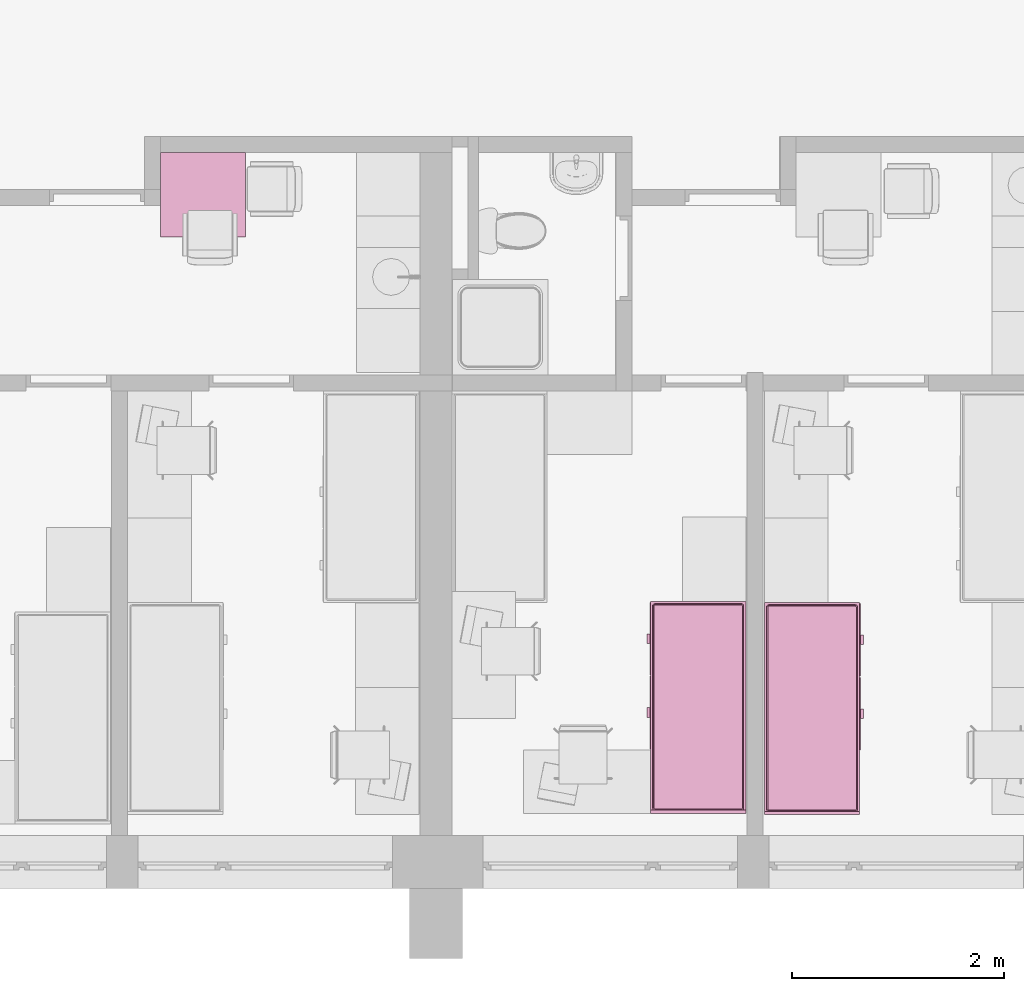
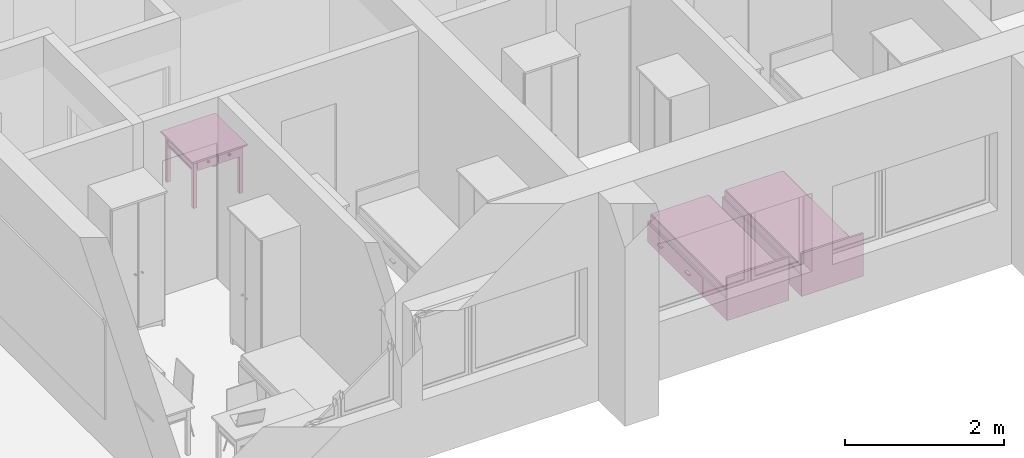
# One storey, part 119 of 165: 3 furnishings.
"""IFC2X3 building model written with IfcOpenShell, lengths in millimetres."""

from ifc_helpers import new_model, entity, si_unit, converted_unit, money_unit, direction, frame, origin_with_axes, place, context, subcontext, project, spatial, faceted_brep, source, transform, mapped, material, material_list, type_object, element, save


model = new_model("IFC2X3")

# Units and contexts
model_context = context("Model", 3, precision=1e-05, world=origin_with_axes(), true_north=direction((0.0, 1.0)))
body_context = subcontext(model_context, "Body", "Model", "MODEL_VIEW")
ifc_project = project(units=[si_unit("LENGTHUNIT", "METRE", prefix="MILLI"), si_unit("AREAUNIT", "SQUARE_METRE"), si_unit("VOLUMEUNIT", "CUBIC_METRE"), converted_unit("PLANEANGLEUNIT", "DEGREE", entity("IfcPlaneAngleMeasure", 0.0174532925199), si_unit("PLANEANGLEUNIT", "RADIAN"), dimensions=[0, 0, 0, 0, 0, 0, 0]), si_unit("SOLIDANGLEUNIT", "STERADIAN"), money_unit("USD"), converted_unit("TIMEUNIT", "Year", entity("IfcTimeMeasure", 31556926.0), si_unit("TIMEUNIT", "SECOND"), dimensions=[0, 0, 0, 0, 0, 0, 0]), si_unit("MASSUNIT", "GRAM"), si_unit("THERMODYNAMICTEMPERATUREUNIT", "DEGREE_CELSIUS"), si_unit("LUMINOUSINTENSITYUNIT", "LUMEN")], contexts=[model_context])

# Site, building, storey
site_placement = place(None, origin_with_axes())
site = spatial("IfcSite", under=ifc_project, at=site_placement, Name="Site", CompositionType="ELEMENT")
building_placement = place(site_placement, origin_with_axes())
building = spatial("IfcBuilding", under=site, at=building_placement, Name="Building", CompositionType="ELEMENT")
storey_placement = place(building_placement, frame((0.0, 0.0, 6300.0), z_axis=(0.0, 0.0, 1.0), x_axis=(1.0, 0.0, 0.0)))
storey = spatial("IfcBuildingStorey", under=building, at=storey_placement, Name="4KORRUS", CompositionType="ELEMENT", Elevation=6300.0)

# Furnishings
ifc_material = material(Name="Background")
ifc_material_list = material_list([ifc_material])
furnishing_element_type_1 = type_object("IfcFurnishingElementType", Name="Bed 19")
shared_shape_1 = source(origin_with_axes(), body_context, "Body", "Brep", [
    faceted_brep([(900.0, 1970.0, 0.0), (0.0, 1970.0, 0.0), (0.0, 2000.0, 0.0), (900.0, 2000.0, 0.0), (900.0, 1970.0, 660.0), (0.0, 1970.0, 660.0), (0.0, 2000.0, 660.0), (900.0, 2000.0, 660.0)], [[[0, 1, 2, 3]], [[1, 0, 4, 5]], [[2, 1, 5, 6]], [[3, 2, 6, 7]], [[0, 3, 7, 4]], [[5, 4, 7, 6]]]),
    faceted_brep([(900.0, 0.0, 0.0), (0.0, 0.0, 0.0), (0.0, 1970.0, 0.0), (900.0, 1970.0, 0.0), (900.0, 0.0, 320.0), (0.0, 0.0, 320.0), (0.0, 1970.0, 320.0), (900.0, 1970.0, 320.0)], [[[0, 1, 2, 3]], [[1, 0, 4, 5]], [[2, 1, 5, 6]], [[3, 2, 6, 7]], [[0, 3, 7, 4]], [[5, 4, 7, 6]]]),
    faceted_brep([(905.0, 10.0, 30.0), (900.0, 10.0, 30.0), (900.0, 695.0, 30.0), (905.0, 695.0, 30.0), (905.0, 10.0, 290.0), (900.0, 10.0, 290.0), (900.0, 695.0, 290.0), (905.0, 695.0, 290.0)], [[[0, 1, 2, 3]], [[1, 0, 4, 5]], [[2, 1, 5, 6]], [[3, 2, 6, 7]], [[0, 3, 7, 4]], [[5, 4, 7, 6]]]),
    faceted_brep([(935.0, 307.5, 150.0), (905.0, 307.5, 150.0), (905.0, 397.5, 150.0), (935.0, 397.5, 150.0), (935.0, 307.5, 170.0), (905.0, 307.5, 170.0), (905.0, 397.5, 170.0), (935.0, 397.5, 170.0)], [[[0, 1, 2, 3]], [[1, 0, 4, 5]], [[2, 1, 5, 6]], [[3, 2, 6, 7]], [[0, 3, 7, 4]], [[5, 4, 7, 6]]]),
    faceted_brep([(905.0, 705.0, 30.0), (900.0, 705.0, 30.0), (900.0, 1390.0, 30.0), (905.0, 1390.0, 30.0), (905.0, 705.0, 290.0), (900.0, 705.0, 290.0), (900.0, 1390.0, 290.0), (905.0, 1390.0, 290.0)], [[[0, 1, 2, 3]], [[1, 0, 4, 5]], [[2, 1, 5, 6]], [[3, 2, 6, 7]], [[0, 3, 7, 4]], [[5, 4, 7, 6]]]),
    faceted_brep([(935.0, 1002.5, 150.0), (905.0, 1002.5, 150.0), (905.0, 1092.5, 150.0), (935.0, 1092.5, 150.0), (935.0, 1002.5, 170.0), (905.0, 1002.5, 170.0), (905.0, 1092.5, 170.0), (935.0, 1092.5, 170.0)], [[[0, 1, 2, 3]], [[1, 0, 4, 5]], [[2, 1, 5, 6]], [[3, 2, 6, 7]], [[0, 3, 7, 4]], [[5, 4, 7, 6]]]),
    faceted_brep([(20.0, 40.0, 350.0), (20.0, 1950.0, 350.0), (21.522, 1957.654, 350.0), (25.858, 1964.142, 350.0), (32.346, 1968.478, 350.0), (40.0, 1970.0, 350.0), (860.0, 1970.0, 350.0), (867.654, 1968.478, 350.0), (874.142, 1964.142, 350.0), (878.478, 1957.654, 350.0), (880.0, 1950.0, 350.0), (880.0, 40.0, 350.0), (878.478, 32.346, 350.0), (874.142, 25.858, 350.0), (867.654, 21.522, 350.0), (860.0, 20.0, 350.0), (40.0, 20.0, 350.0), (32.346, 21.522, 350.0), (25.858, 25.858, 350.0), (21.522, 32.346, 350.0), (20.0, 40.0, 420.0), (20.0, 1950.0, 420.0), (21.522, 1957.654, 420.0), (25.858, 1964.142, 420.0), (32.346, 1968.478, 420.0), (40.0, 1970.0, 420.0), (860.0, 1970.0, 420.0), (867.654, 1968.478, 420.0), (874.142, 1964.142, 420.0), (878.478, 1957.654, 420.0), (880.0, 1950.0, 420.0), (880.0, 40.0, 420.0), (878.478, 32.346, 420.0), (874.142, 25.858, 420.0), (867.654, 21.522, 420.0), (860.0, 20.0, 420.0), (40.0, 20.0, 420.0), (32.346, 21.522, 420.0), (25.858, 25.858, 420.0), (21.522, 32.346, 420.0), (21.522, 40.15, 427.654), (21.522, 1949.85, 427.654), (22.956, 1957.06, 427.654), (26.955, 1963.045, 427.654), (32.94, 1967.044, 427.654), (40.15, 1968.478, 427.654), (859.85, 1968.478, 427.654), (867.06, 1967.044, 427.654), (873.045, 1963.045, 427.654), (877.044, 1957.06, 427.654), (878.478, 1949.85, 427.654), (878.478, 40.15, 427.654), (877.044, 32.94, 427.654), (873.045, 26.955, 427.654), (867.06, 22.956, 427.654), (859.85, 21.522, 427.654), (40.15, 21.522, 427.654), (32.94, 22.956, 427.654), (26.955, 26.955, 427.654), (22.956, 32.94, 427.654), (32.346, 41.216, 438.478), (32.346, 1948.784, 438.478), (33.152, 1952.836, 438.478), (34.759, 1955.241, 438.478), (37.164, 1956.848, 438.478), (41.216, 1957.654, 438.478), (858.784, 1957.654, 438.478), (862.836, 1956.848, 438.478), (865.241, 1955.241, 438.478), (866.848, 1952.836, 438.478), (867.654, 1948.784, 438.478), (867.654, 41.216, 438.478), (866.848, 37.164, 438.478), (865.241, 34.759, 438.478), (862.836, 33.152, 438.478), (858.784, 32.346, 438.478), (41.216, 32.346, 438.478), (37.164, 33.152, 438.478), (34.759, 34.759, 438.478), (33.152, 37.164, 438.478), (40.0, 41.97, 440.0), (40.0, 1948.03, 440.0), (40.327, 1949.673, 440.0), (40.0, 1950.0, 439.924), (41.97, 1950.0, 440.0), (858.03, 1950.0, 440.0), (859.673, 1949.673, 440.0), (860.0, 1950.0, 439.924), (860.0, 1948.03, 440.0), (860.0, 41.97, 440.0), (859.673, 40.327, 440.0), (860.0, 40.0, 439.924), (858.03, 40.0, 440.0), (41.97, 40.0, 440.0), (40.327, 40.327, 440.0), (40.0, 40.0, 439.924)], [[[0, 1, 2, 3, 4, 5, 6, 7, 8, 9, 10, 11, 12, 13, 14, 15, 16, 17, 18, 19]], [[1, 0, 20, 21]], [[2, 1, 21, 22]], [[3, 2, 22, 23]], [[4, 3, 23, 24]], [[5, 4, 24, 25]], [[6, 5, 25, 26]], [[7, 6, 26, 27]], [[8, 7, 27, 28]], [[9, 8, 28, 29]], [[10, 9, 29, 30]], [[11, 10, 30, 31]], [[12, 11, 31, 32]], [[13, 12, 32, 33]], [[14, 13, 33, 34]], [[15, 14, 34, 35]], [[16, 15, 35, 36]], [[17, 16, 36, 37]], [[18, 17, 37, 38]], [[19, 18, 38, 39]], [[0, 19, 39, 20]], [[21, 20, 40, 41]], [[22, 21, 41, 42]], [[23, 22, 42, 43]], [[24, 23, 43, 44]], [[25, 24, 44, 45]], [[26, 25, 45, 46]], [[27, 26, 46, 47]], [[28, 27, 47, 48]], [[29, 28, 48, 49]], [[30, 29, 49, 50]], [[31, 30, 50, 51]], [[32, 31, 51, 52]], [[33, 32, 52, 53]], [[34, 33, 53, 54]], [[35, 34, 54, 55]], [[36, 35, 55, 56]], [[37, 36, 56, 57]], [[38, 37, 57, 58]], [[39, 38, 58, 59]], [[20, 39, 59, 40]], [[41, 40, 60, 61]], [[42, 41, 61, 62]], [[43, 42, 62, 63]], [[44, 43, 63, 64]], [[45, 44, 64, 65]], [[46, 45, 65, 66]], [[47, 46, 66, 67]], [[48, 47, 67, 68]], [[49, 48, 68, 69]], [[50, 49, 69, 70]], [[51, 50, 70, 71]], [[52, 51, 71, 72]], [[53, 52, 72, 73]], [[54, 53, 73, 74]], [[55, 54, 74, 75]], [[56, 55, 75, 76]], [[57, 56, 76, 77]], [[58, 57, 77, 78]], [[59, 58, 78, 79]], [[40, 59, 79, 60]], [[61, 60, 80, 81]], [[62, 61, 81, 82, 83]], [[63, 62, 83]], [[64, 63, 83]], [[65, 64, 83, 82, 84]], [[66, 65, 84, 85]], [[67, 66, 85, 86, 87]], [[68, 67, 87]], [[69, 68, 87]], [[70, 69, 87, 86, 88]], [[71, 70, 88, 89]], [[72, 71, 89, 90, 91]], [[73, 72, 91]], [[74, 73, 91]], [[75, 74, 91, 90, 92]], [[76, 75, 92, 93]], [[77, 76, 93, 94, 95]], [[78, 77, 95]], [[79, 78, 95]], [[60, 79, 95, 94, 80]], [[81, 80, 94, 93, 92, 90, 89, 88, 86, 85, 84, 82]]]),
    faceted_brep([(20.0, 40.0, 350.0), (21.522, 32.346, 350.0), (25.858, 25.858, 350.0), (32.346, 21.522, 350.0), (40.0, 20.0, 350.0), (860.0, 20.0, 350.0), (867.654, 21.522, 350.0), (874.142, 25.858, 350.0), (878.478, 32.346, 350.0), (880.0, 40.0, 350.0), (880.0, 1950.0, 350.0), (878.478, 1957.654, 350.0), (874.142, 1964.142, 350.0), (867.654, 1968.478, 350.0), (860.0, 1970.0, 350.0), (40.0, 1970.0, 350.0), (32.346, 1968.478, 350.0), (25.858, 1964.142, 350.0), (21.522, 1957.654, 350.0), (20.0, 1950.0, 350.0), (20.0, 40.0, 320.0), (21.522, 32.346, 320.0), (25.858, 25.858, 320.0), (32.346, 21.522, 320.0), (40.0, 20.0, 320.0), (860.0, 20.0, 320.0), (867.654, 21.522, 320.0), (874.142, 25.858, 320.0), (878.478, 32.346, 320.0), (880.0, 40.0, 320.0), (880.0, 1950.0, 320.0), (878.478, 1957.654, 320.0), (874.142, 1964.142, 320.0), (867.654, 1968.478, 320.0), (860.0, 1970.0, 320.0), (40.0, 1970.0, 320.0), (32.346, 1968.478, 320.0), (25.858, 1964.142, 320.0), (21.522, 1957.654, 320.0), (20.0, 1950.0, 320.0)], [[[0, 1, 2, 3, 4, 5, 6, 7, 8, 9, 10, 11, 12, 13, 14, 15, 16, 17, 18, 19]], [[0, 20, 21, 1]], [[1, 21, 22, 2]], [[2, 22, 23, 3]], [[3, 23, 24, 4]], [[4, 24, 25, 5]], [[5, 25, 26, 6]], [[6, 26, 27, 7]], [[7, 27, 28, 8]], [[8, 28, 29, 9]], [[9, 29, 30, 10]], [[10, 30, 31, 11]], [[11, 31, 32, 12]], [[12, 32, 33, 13]], [[13, 33, 34, 14]], [[14, 34, 35, 15]], [[15, 35, 36, 16]], [[16, 36, 37, 17]], [[17, 37, 38, 18]], [[18, 38, 39, 19]], [[19, 39, 20, 0]], [[20, 39, 38, 37, 36, 35, 34, 33, 32, 31, 30, 29, 28, 27, 26, 25, 24, 23, 22, 21]]]),
])
furnishing_1_placement = place(storey_placement, frame((2784.70329669, -17429.2398994, 0.0), z_axis=(0.0, 0.0, 1.0), x_axis=(-1.0, 0.0, 0.0)))
element("IfcFurnishingElement", 1, at=furnishing_1_placement, inside=storey, type_object=furnishing_element_type_1, material=ifc_material_list, Name="FU - 013", context=body_context, shape_type="MappedRepresentation", body=[
    mapped(shared_shape_1, transform((0.0, 0.0, 0.0))),
])
shared_shape_2 = source(origin_with_axes(), body_context, "Body", "Brep", [
    faceted_brep([(-900.0, 1970.0, 0.0), (-900.0, 2000.0, 0.0), (0.0, 2000.0, 0.0), (0.0, 1970.0, 0.0), (-900.0, 1970.0, 660.0), (-900.0, 2000.0, 660.0), (0.0, 2000.0, 660.0), (0.0, 1970.0, 660.0)], [[[0, 1, 2, 3]], [[0, 4, 5, 1]], [[1, 5, 6, 2]], [[2, 6, 7, 3]], [[3, 7, 4, 0]], [[7, 6, 5, 4]]]),
    faceted_brep([(-900.0, 0.0, 0.0), (-900.0, 1970.0, 0.0), (0.0, 1970.0, 0.0), (0.0, 0.0, 0.0), (-900.0, 0.0, 320.0), (-900.0, 1970.0, 320.0), (0.0, 1970.0, 320.0), (0.0, 0.0, 320.0)], [[[0, 1, 2, 3]], [[0, 4, 5, 1]], [[1, 5, 6, 2]], [[2, 6, 7, 3]], [[3, 7, 4, 0]], [[7, 6, 5, 4]]]),
    faceted_brep([(-905.0, 10.0, 30.0), (-905.0, 695.0, 30.0), (-900.0, 695.0, 30.0), (-900.0, 10.0, 30.0), (-905.0, 10.0, 290.0), (-905.0, 695.0, 290.0), (-900.0, 695.0, 290.0), (-900.0, 10.0, 290.0)], [[[0, 1, 2, 3]], [[0, 4, 5, 1]], [[1, 5, 6, 2]], [[2, 6, 7, 3]], [[3, 7, 4, 0]], [[7, 6, 5, 4]]]),
    faceted_brep([(-935.0, 307.5, 150.0), (-935.0, 397.5, 150.0), (-905.0, 397.5, 150.0), (-905.0, 307.5, 150.0), (-935.0, 307.5, 170.0), (-935.0, 397.5, 170.0), (-905.0, 397.5, 170.0), (-905.0, 307.5, 170.0)], [[[0, 1, 2, 3]], [[0, 4, 5, 1]], [[1, 5, 6, 2]], [[2, 6, 7, 3]], [[3, 7, 4, 0]], [[7, 6, 5, 4]]]),
    faceted_brep([(-905.0, 705.0, 30.0), (-905.0, 1390.0, 30.0), (-900.0, 1390.0, 30.0), (-900.0, 705.0, 30.0), (-905.0, 705.0, 290.0), (-905.0, 1390.0, 290.0), (-900.0, 1390.0, 290.0), (-900.0, 705.0, 290.0)], [[[0, 1, 2, 3]], [[0, 4, 5, 1]], [[1, 5, 6, 2]], [[2, 6, 7, 3]], [[3, 7, 4, 0]], [[7, 6, 5, 4]]]),
    faceted_brep([(-935.0, 1002.5, 150.0), (-935.0, 1092.5, 150.0), (-905.0, 1092.5, 150.0), (-905.0, 1002.5, 150.0), (-935.0, 1002.5, 170.0), (-935.0, 1092.5, 170.0), (-905.0, 1092.5, 170.0), (-905.0, 1002.5, 170.0)], [[[0, 1, 2, 3]], [[0, 4, 5, 1]], [[1, 5, 6, 2]], [[2, 6, 7, 3]], [[3, 7, 4, 0]], [[7, 6, 5, 4]]]),
    faceted_brep([(-20.0, 40.0, 350.0), (-21.522, 32.346, 350.0), (-25.858, 25.858, 350.0), (-32.346, 21.522, 350.0), (-40.0, 20.0, 350.0), (-860.0, 20.0, 350.0), (-867.654, 21.522, 350.0), (-874.142, 25.858, 350.0), (-878.478, 32.346, 350.0), (-880.0, 40.0, 350.0), (-880.0, 1950.0, 350.0), (-878.478, 1957.654, 350.0), (-874.142, 1964.142, 350.0), (-867.654, 1968.478, 350.0), (-860.0, 1970.0, 350.0), (-40.0, 1970.0, 350.0), (-32.346, 1968.478, 350.0), (-25.858, 1964.142, 350.0), (-21.522, 1957.654, 350.0), (-20.0, 1950.0, 350.0), (-20.0, 40.0, 420.0), (-21.522, 32.346, 420.0), (-25.858, 25.858, 420.0), (-32.346, 21.522, 420.0), (-40.0, 20.0, 420.0), (-860.0, 20.0, 420.0), (-867.654, 21.522, 420.0), (-874.142, 25.858, 420.0), (-878.478, 32.346, 420.0), (-880.0, 40.0, 420.0), (-880.0, 1950.0, 420.0), (-878.478, 1957.654, 420.0), (-874.142, 1964.142, 420.0), (-867.654, 1968.478, 420.0), (-860.0, 1970.0, 420.0), (-40.0, 1970.0, 420.0), (-32.346, 1968.478, 420.0), (-25.858, 1964.142, 420.0), (-21.522, 1957.654, 420.0), (-20.0, 1950.0, 420.0), (-21.522, 40.15, 427.654), (-22.956, 32.94, 427.654), (-26.955, 26.955, 427.654), (-32.94, 22.956, 427.654), (-40.15, 21.522, 427.654), (-859.85, 21.522, 427.654), (-867.06, 22.956, 427.654), (-873.045, 26.955, 427.654), (-877.044, 32.94, 427.654), (-878.478, 40.15, 427.654), (-878.478, 1949.85, 427.654), (-877.044, 1957.06, 427.654), (-873.045, 1963.045, 427.654), (-867.06, 1967.044, 427.654), (-859.85, 1968.478, 427.654), (-40.15, 1968.478, 427.654), (-32.94, 1967.044, 427.654), (-26.955, 1963.045, 427.654), (-22.956, 1957.06, 427.654), (-21.522, 1949.85, 427.654), (-32.346, 41.216, 438.478), (-33.152, 37.164, 438.478), (-34.759, 34.759, 438.478), (-37.164, 33.152, 438.478), (-41.216, 32.346, 438.478), (-858.784, 32.346, 438.478), (-862.836, 33.152, 438.478), (-865.241, 34.759, 438.478), (-866.848, 37.164, 438.478), (-867.654, 41.216, 438.478), (-867.654, 1948.784, 438.478), (-866.848, 1952.836, 438.478), (-865.241, 1955.241, 438.478), (-862.836, 1956.848, 438.478), (-858.784, 1957.654, 438.478), (-41.216, 1957.654, 438.478), (-37.164, 1956.848, 438.478), (-34.759, 1955.241, 438.478), (-33.152, 1952.836, 438.478), (-32.346, 1948.784, 438.478), (-40.0, 41.97, 440.0), (-40.327, 40.327, 440.0), (-40.0, 40.0, 439.924), (-41.97, 40.0, 440.0), (-858.03, 40.0, 440.0), (-859.673, 40.327, 440.0), (-860.0, 40.0, 439.924), (-860.0, 41.97, 440.0), (-860.0, 1948.03, 440.0), (-859.673, 1949.673, 440.0), (-860.0, 1950.0, 439.924), (-858.03, 1950.0, 440.0), (-41.97, 1950.0, 440.0), (-40.327, 1949.673, 440.0), (-40.0, 1950.0, 439.924), (-40.0, 1948.03, 440.0)], [[[0, 1, 2, 3, 4, 5, 6, 7, 8, 9, 10, 11, 12, 13, 14, 15, 16, 17, 18, 19]], [[0, 20, 21, 1]], [[1, 21, 22, 2]], [[2, 22, 23, 3]], [[3, 23, 24, 4]], [[4, 24, 25, 5]], [[5, 25, 26, 6]], [[6, 26, 27, 7]], [[7, 27, 28, 8]], [[8, 28, 29, 9]], [[9, 29, 30, 10]], [[10, 30, 31, 11]], [[11, 31, 32, 12]], [[12, 32, 33, 13]], [[13, 33, 34, 14]], [[14, 34, 35, 15]], [[15, 35, 36, 16]], [[16, 36, 37, 17]], [[17, 37, 38, 18]], [[18, 38, 39, 19]], [[19, 39, 20, 0]], [[20, 40, 41, 21]], [[21, 41, 42, 22]], [[22, 42, 43, 23]], [[23, 43, 44, 24]], [[24, 44, 45, 25]], [[25, 45, 46, 26]], [[26, 46, 47, 27]], [[27, 47, 48, 28]], [[28, 48, 49, 29]], [[29, 49, 50, 30]], [[30, 50, 51, 31]], [[31, 51, 52, 32]], [[32, 52, 53, 33]], [[33, 53, 54, 34]], [[34, 54, 55, 35]], [[35, 55, 56, 36]], [[36, 56, 57, 37]], [[37, 57, 58, 38]], [[38, 58, 59, 39]], [[39, 59, 40, 20]], [[40, 60, 61, 41]], [[41, 61, 62, 42]], [[42, 62, 63, 43]], [[43, 63, 64, 44]], [[44, 64, 65, 45]], [[45, 65, 66, 46]], [[46, 66, 67, 47]], [[47, 67, 68, 48]], [[48, 68, 69, 49]], [[49, 69, 70, 50]], [[50, 70, 71, 51]], [[51, 71, 72, 52]], [[52, 72, 73, 53]], [[53, 73, 74, 54]], [[54, 74, 75, 55]], [[55, 75, 76, 56]], [[56, 76, 77, 57]], [[57, 77, 78, 58]], [[58, 78, 79, 59]], [[59, 79, 60, 40]], [[60, 80, 81, 82, 61]], [[61, 82, 62]], [[62, 82, 63]], [[63, 82, 81, 83, 64]], [[64, 83, 84, 65]], [[65, 84, 85, 86, 66]], [[66, 86, 67]], [[67, 86, 68]], [[68, 86, 85, 87, 69]], [[69, 87, 88, 70]], [[70, 88, 89, 90, 71]], [[71, 90, 72]], [[72, 90, 73]], [[73, 90, 89, 91, 74]], [[74, 91, 92, 75]], [[75, 92, 93, 94, 76]], [[76, 94, 77]], [[77, 94, 78]], [[78, 94, 93, 95, 79]], [[79, 95, 80, 60]], [[95, 93, 92, 91, 89, 88, 87, 85, 84, 83, 81, 80]]]),
    faceted_brep([(-20.0, 40.0, 350.0), (-20.0, 1950.0, 350.0), (-21.522, 1957.654, 350.0), (-25.858, 1964.142, 350.0), (-32.346, 1968.478, 350.0), (-40.0, 1970.0, 350.0), (-860.0, 1970.0, 350.0), (-867.654, 1968.478, 350.0), (-874.142, 1964.142, 350.0), (-878.478, 1957.654, 350.0), (-880.0, 1950.0, 350.0), (-880.0, 40.0, 350.0), (-878.478, 32.346, 350.0), (-874.142, 25.858, 350.0), (-867.654, 21.522, 350.0), (-860.0, 20.0, 350.0), (-40.0, 20.0, 350.0), (-32.346, 21.522, 350.0), (-25.858, 25.858, 350.0), (-21.522, 32.346, 350.0), (-20.0, 40.0, 320.0), (-20.0, 1950.0, 320.0), (-21.522, 1957.654, 320.0), (-25.858, 1964.142, 320.0), (-32.346, 1968.478, 320.0), (-40.0, 1970.0, 320.0), (-860.0, 1970.0, 320.0), (-867.654, 1968.478, 320.0), (-874.142, 1964.142, 320.0), (-878.478, 1957.654, 320.0), (-880.0, 1950.0, 320.0), (-880.0, 40.0, 320.0), (-878.478, 32.346, 320.0), (-874.142, 25.858, 320.0), (-867.654, 21.522, 320.0), (-860.0, 20.0, 320.0), (-40.0, 20.0, 320.0), (-32.346, 21.522, 320.0), (-25.858, 25.858, 320.0), (-21.522, 32.346, 320.0)], [[[0, 1, 2, 3, 4, 5, 6, 7, 8, 9, 10, 11, 12, 13, 14, 15, 16, 17, 18, 19]], [[1, 0, 20, 21]], [[2, 1, 21, 22]], [[3, 2, 22, 23]], [[4, 3, 23, 24]], [[5, 4, 24, 25]], [[6, 5, 25, 26]], [[7, 6, 26, 27]], [[8, 7, 27, 28]], [[9, 8, 28, 29]], [[10, 9, 29, 30]], [[11, 10, 30, 31]], [[12, 11, 31, 32]], [[13, 12, 32, 33]], [[14, 13, 33, 34]], [[15, 14, 34, 35]], [[16, 15, 35, 36]], [[17, 16, 36, 37]], [[18, 17, 37, 38]], [[19, 18, 38, 39]], [[0, 19, 39, 20]], [[20, 39, 38, 37, 36, 35, 34, 33, 32, 31, 30, 29, 28, 27, 26, 25, 24, 23, 22, 21]]]),
])
furnishing_2_placement = place(storey_placement, frame((2959.70329669, -17439.2398994, 0.0), z_axis=(0.0, 0.0, 1.0), x_axis=(-1.0, 0.0, 0.0)))
element("IfcFurnishingElement", 2, at=furnishing_2_placement, inside=storey, type_object=furnishing_element_type_1, material=ifc_material_list, Name="FU - 013", context=body_context, shape_type="MappedRepresentation", body=[
    mapped(shared_shape_2, transform((0.0, 0.0, 0.0))),
])
furnishing_element_type_2 = type_object("IfcFurnishingElementType", Name="Rectangular Table 01 19")
shared_shape_3 = source(origin_with_axes(), body_context, "Body", "Brep", [
    faceted_brep([(90.0, 40.0, 0.0), (40.0, 40.0, 0.0), (40.0, 90.0, 0.0), (90.0, 90.0, 0.0), (90.0, 40.0, 725.0), (40.0, 40.0, 725.0), (40.0, 90.0, 725.0), (90.0, 90.0, 725.0)], [[[0, 1, 2, 3]], [[1, 0, 4, 5]], [[2, 1, 5, 6]], [[3, 2, 6, 7]], [[0, 3, 7, 4]], [[5, 4, 7, 6]]]),
    faceted_brep([(760.0, 40.0, 0.0), (710.0, 40.0, 0.0), (710.0, 90.0, 0.0), (760.0, 90.0, 0.0), (760.0, 40.0, 725.0), (710.0, 40.0, 725.0), (710.0, 90.0, 725.0), (760.0, 90.0, 725.0)], [[[0, 1, 2, 3]], [[1, 0, 4, 5]], [[2, 1, 5, 6]], [[3, 2, 6, 7]], [[0, 3, 7, 4]], [[5, 4, 7, 6]]]),
    faceted_brep([(90.0, 710.0, 0.0), (40.0, 710.0, 0.0), (40.0, 760.0, 0.0), (90.0, 760.0, 0.0), (90.0, 710.0, 725.0), (40.0, 710.0, 725.0), (40.0, 760.0, 725.0), (90.0, 760.0, 725.0)], [[[0, 1, 2, 3]], [[1, 0, 4, 5]], [[2, 1, 5, 6]], [[3, 2, 6, 7]], [[0, 3, 7, 4]], [[5, 4, 7, 6]]]),
    faceted_brep([(760.0, 710.0, 0.0), (710.0, 710.0, 0.0), (710.0, 760.0, 0.0), (760.0, 760.0, 0.0), (760.0, 710.0, 725.0), (710.0, 710.0, 725.0), (710.0, 760.0, 725.0), (760.0, 760.0, 725.0)], [[[0, 1, 2, 3]], [[1, 0, 4, 5]], [[2, 1, 5, 6]], [[3, 2, 6, 7]], [[0, 3, 7, 4]], [[5, 4, 7, 6]]]),
    faceted_brep([(760.0, 40.0, 565.0), (40.0, 40.0, 565.0), (40.0, 760.0, 565.0), (760.0, 760.0, 565.0), (760.0, 40.0, 585.0), (40.0, 40.0, 585.0), (40.0, 760.0, 585.0), (760.0, 760.0, 585.0)], [[[0, 1, 2, 3]], [[1, 0, 4, 5]], [[2, 1, 5, 6]], [[3, 2, 6, 7]], [[0, 3, 7, 4]], [[5, 4, 7, 6]]]),
    faceted_brep([(710.0, 52.5, 585.0), (90.0, 52.5, 585.0), (90.0, 77.5, 585.0), (710.0, 77.5, 585.0), (710.0, 52.5, 745.0), (90.0, 52.5, 745.0), (90.0, 77.5, 745.0), (710.0, 77.5, 745.0)], [[[0, 1, 2, 3]], [[1, 0, 4, 5]], [[2, 1, 5, 6]], [[3, 2, 6, 7]], [[0, 3, 7, 4]], [[5, 4, 7, 6]]]),
    faceted_brep([(77.5, 90.0, 585.0), (52.5, 90.0, 585.0), (52.5, 710.0, 585.0), (77.5, 710.0, 585.0), (77.5, 90.0, 745.0), (52.5, 90.0, 745.0), (52.5, 710.0, 745.0), (77.5, 710.0, 745.0)], [[[0, 1, 2, 3]], [[1, 0, 4, 5]], [[2, 1, 5, 6]], [[3, 2, 6, 7]], [[0, 3, 7, 4]], [[5, 4, 7, 6]]]),
    faceted_brep([(90.0, 747.5, 585.0), (710.0, 747.5, 585.0), (710.0, 722.5, 585.0), (90.0, 722.5, 585.0), (90.0, 747.5, 745.0), (710.0, 747.5, 745.0), (710.0, 722.5, 745.0), (90.0, 722.5, 745.0)], [[[0, 1, 2, 3]], [[1, 0, 4, 5]], [[2, 1, 5, 6]], [[3, 2, 6, 7]], [[0, 3, 7, 4]], [[5, 4, 7, 6]]]),
    faceted_brep([(722.5, 710.0, 585.0), (747.5, 710.0, 585.0), (747.5, 90.0, 585.0), (722.5, 90.0, 585.0), (722.5, 710.0, 745.0), (747.5, 710.0, 745.0), (747.5, 90.0, 745.0), (722.5, 90.0, 745.0)], [[[0, 1, 2, 3]], [[1, 0, 4, 5]], [[2, 1, 5, 6]], [[3, 2, 6, 7]], [[0, 3, 7, 4]], [[5, 4, 7, 6]]]),
    faceted_brep([(397.5, 40.0, 585.0), (95.0, 40.0, 585.0), (95.0, 60.0, 585.0), (397.5, 60.0, 585.0), (397.5, 40.0, 745.0), (95.0, 40.0, 745.0), (95.0, 60.0, 745.0), (397.5, 60.0, 745.0)], [[[0, 1, 2, 3]], [[1, 0, 4, 5]], [[2, 1, 5, 6]], [[3, 2, 6, 7]], [[0, 3, 7, 4]], [[5, 4, 7, 6]]]),
    faceted_brep([(705.0, 40.0, 585.0), (402.5, 40.0, 585.0), (402.5, 60.0, 585.0), (705.0, 60.0, 585.0), (705.0, 40.0, 745.0), (402.5, 40.0, 745.0), (402.5, 60.0, 745.0), (705.0, 60.0, 745.0)], [[[0, 1, 2, 3]], [[1, 0, 4, 5]], [[2, 1, 5, 6]], [[3, 2, 6, 7]], [[0, 3, 7, 4]], [[5, 4, 7, 6]]]),
    faceted_brep([(254.91, 40.0, 660.0), (251.25, 40.0, 656.34), (246.25, 40.0, 655.0), (241.25, 40.0, 656.34), (237.59, 40.0, 660.0), (236.25, 40.0, 665.0), (237.59, 40.0, 670.0), (241.25, 40.0, 673.66), (246.25, 40.0, 675.0), (251.25, 40.0, 673.66), (254.91, 40.0, 670.0), (256.25, 40.0, 665.0), (254.91, 25.0, 660.0), (251.25, 25.0, 656.34), (246.25, 25.0, 655.0), (241.25, 25.0, 656.34), (237.59, 25.0, 660.0), (236.25, 25.0, 665.0), (237.59, 25.0, 670.0), (241.25, 25.0, 673.66), (246.25, 25.0, 675.0), (251.25, 25.0, 673.66), (254.91, 25.0, 670.0), (256.25, 25.0, 665.0)], [[[0, 1, 2, 3, 4, 5, 6, 7, 8, 9, 10, 11]], [[1, 0, 12, 13]], [[2, 1, 13, 14]], [[3, 2, 14, 15]], [[4, 3, 15, 16]], [[5, 4, 16, 17]], [[6, 5, 17, 18]], [[7, 6, 18, 19]], [[8, 7, 19, 20]], [[9, 8, 20, 21]], [[10, 9, 21, 22]], [[11, 10, 22, 23]], [[0, 11, 23, 12]], [[12, 23, 22, 21, 20, 19, 18, 17, 16, 15, 14, 13]]]),
    faceted_brep([(256.25, 12.01, 665.0), (246.25, 10.0, 665.0), (254.91, 12.01, 660.0), (254.91, 12.01, 670.0), (251.25, 12.01, 656.34), (263.571, 17.5, 665.0), (261.25, 17.5, 656.34), (251.25, 12.01, 673.66), (261.25, 17.5, 673.66), (246.25, 12.01, 655.0), (254.91, 17.5, 650.0), (266.25, 25.0, 665.0), (263.571, 25.0, 655.0), (246.25, 12.01, 675.0), (254.91, 17.5, 680.0), (263.571, 25.0, 675.0), (241.25, 12.01, 656.34), (246.25, 17.5, 647.679), (256.25, 25.0, 647.679), (246.25, 25.0, 645.0), (236.25, 25.0, 647.679), (228.929, 25.0, 655.0), (226.25, 25.0, 665.0), (228.929, 25.0, 675.0), (236.25, 25.0, 682.321), (246.25, 25.0, 685.0), (256.25, 25.0, 682.321), (241.25, 12.01, 673.66), (246.25, 17.5, 682.321), (237.59, 12.01, 660.0), (237.59, 17.5, 650.0), (231.25, 17.5, 656.34), (228.929, 17.5, 665.0), (231.25, 17.5, 673.66), (237.59, 17.5, 680.0), (237.59, 12.01, 670.0), (236.25, 12.01, 665.0)], [[[0, 1, 2]], [[3, 1, 0]], [[2, 1, 4]], [[5, 0, 2, 6]], [[7, 1, 3]], [[8, 3, 0, 5]], [[4, 1, 9]], [[6, 2, 4, 10]], [[11, 5, 6, 12]], [[13, 1, 7]], [[14, 7, 3, 8]], [[15, 8, 5, 11]], [[9, 1, 16]], [[10, 4, 9, 17]], [[12, 6, 10, 18]], [[12, 18, 19, 20, 21, 22, 23, 24, 25, 26, 15, 11]], [[27, 1, 13]], [[28, 13, 7, 14]], [[26, 14, 8, 15]], [[16, 1, 29]], [[17, 9, 16, 30]], [[18, 10, 17, 19]], [[19, 17, 30, 20]], [[20, 30, 31, 21]], [[21, 31, 32, 22]], [[22, 32, 33, 23]], [[23, 33, 34, 24]], [[24, 34, 28, 25]], [[25, 28, 14, 26]], [[35, 1, 27]], [[34, 27, 13, 28]], [[29, 1, 36]], [[30, 16, 29, 31]], [[31, 29, 36, 32]], [[32, 36, 35, 33]], [[33, 35, 27, 34]], [[36, 1, 35]]]),
    faceted_brep([(562.41, 40.0, 660.0), (558.75, 40.0, 656.34), (553.75, 40.0, 655.0), (548.75, 40.0, 656.34), (545.09, 40.0, 660.0), (543.75, 40.0, 665.0), (545.09, 40.0, 670.0), (548.75, 40.0, 673.66), (553.75, 40.0, 675.0), (558.75, 40.0, 673.66), (562.41, 40.0, 670.0), (563.75, 40.0, 665.0), (562.41, 25.0, 660.0), (558.75, 25.0, 656.34), (553.75, 25.0, 655.0), (548.75, 25.0, 656.34), (545.09, 25.0, 660.0), (543.75, 25.0, 665.0), (545.09, 25.0, 670.0), (548.75, 25.0, 673.66), (553.75, 25.0, 675.0), (558.75, 25.0, 673.66), (562.41, 25.0, 670.0), (563.75, 25.0, 665.0)], [[[0, 1, 2, 3, 4, 5, 6, 7, 8, 9, 10, 11]], [[1, 0, 12, 13]], [[2, 1, 13, 14]], [[3, 2, 14, 15]], [[4, 3, 15, 16]], [[5, 4, 16, 17]], [[6, 5, 17, 18]], [[7, 6, 18, 19]], [[8, 7, 19, 20]], [[9, 8, 20, 21]], [[10, 9, 21, 22]], [[11, 10, 22, 23]], [[0, 11, 23, 12]], [[12, 23, 22, 21, 20, 19, 18, 17, 16, 15, 14, 13]]]),
    faceted_brep([(563.75, 12.01, 665.0), (553.75, 10.0, 665.0), (562.41, 12.01, 660.0), (562.41, 12.01, 670.0), (558.75, 12.01, 656.34), (571.071, 17.5, 665.0), (568.75, 17.5, 656.34), (558.75, 12.01, 673.66), (568.75, 17.5, 673.66), (553.75, 12.01, 655.0), (562.41, 17.5, 650.0), (573.75, 25.0, 665.0), (571.071, 25.0, 655.0), (553.75, 12.01, 675.0), (562.41, 17.5, 680.0), (571.071, 25.0, 675.0), (548.75, 12.01, 656.34), (553.75, 17.5, 647.679), (563.75, 25.0, 647.679), (553.75, 25.0, 645.0), (543.75, 25.0, 647.679), (536.429, 25.0, 655.0), (533.75, 25.0, 665.0), (536.429, 25.0, 675.0), (543.75, 25.0, 682.321), (553.75, 25.0, 685.0), (563.75, 25.0, 682.321), (548.75, 12.01, 673.66), (553.75, 17.5, 682.321), (545.09, 12.01, 660.0), (545.09, 17.5, 650.0), (538.75, 17.5, 656.34), (536.429, 17.5, 665.0), (538.75, 17.5, 673.66), (545.09, 17.5, 680.0), (545.09, 12.01, 670.0), (543.75, 12.01, 665.0)], [[[0, 1, 2]], [[3, 1, 0]], [[2, 1, 4]], [[5, 0, 2, 6]], [[7, 1, 3]], [[8, 3, 0, 5]], [[4, 1, 9]], [[6, 2, 4, 10]], [[11, 5, 6, 12]], [[13, 1, 7]], [[14, 7, 3, 8]], [[15, 8, 5, 11]], [[9, 1, 16]], [[10, 4, 9, 17]], [[12, 6, 10, 18]], [[12, 18, 19, 20, 21, 22, 23, 24, 25, 26, 15, 11]], [[27, 1, 13]], [[28, 13, 7, 14]], [[26, 14, 8, 15]], [[16, 1, 29]], [[17, 9, 16, 30]], [[18, 10, 17, 19]], [[19, 17, 30, 20]], [[20, 30, 31, 21]], [[21, 31, 32, 22]], [[22, 32, 33, 23]], [[23, 33, 34, 24]], [[24, 34, 28, 25]], [[25, 28, 14, 26]], [[35, 1, 27]], [[34, 27, 13, 28]], [[29, 1, 36]], [[30, 16, 29, 31]], [[31, 29, 36, 32]], [[32, 36, 35, 33]], [[33, 35, 27, 34]], [[36, 1, 35]]]),
    faceted_brep([(800.0, 0.0, 725.0), (0.0, 0.0, 725.0), (0.0, 800.0, 725.0), (800.0, 800.0, 725.0), (800.0, 0.0, 750.0), (0.0, 0.0, 750.0), (0.0, 800.0, 750.0), (800.0, 800.0, 750.0)], [[[0, 1, 2, 3]], [[1, 0, 4, 5]], [[2, 1, 5, 6]], [[3, 2, 6, 7]], [[0, 3, 7, 4]], [[5, 4, 7, 6]]]),
])
furnishing_3_placement = place(storey_placement, frame((-2740.44264288, -13989.2398994, 0.0), z_axis=(0.0, 0.0, 1.0), x_axis=(1.0, 0.0, 0.0)))
element("IfcFurnishingElement", 3, at=furnishing_3_placement, inside=storey, type_object=furnishing_element_type_2, material=ifc_material_list, Name="FU - 011", context=body_context, shape_type="MappedRepresentation", body=[
    mapped(shared_shape_3, transform((0.0, 0.0, 0.0))),
])

save(model, "model.ifc")
